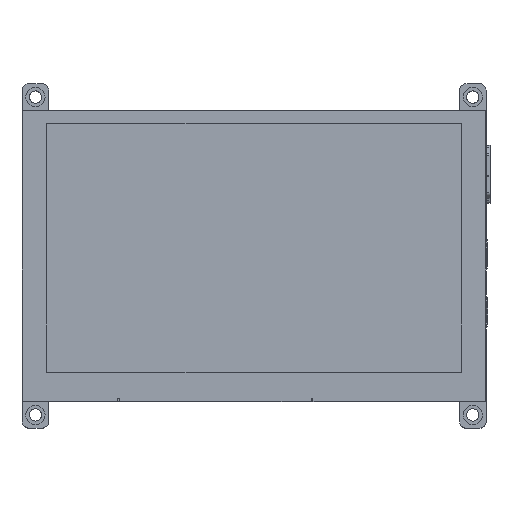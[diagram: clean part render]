
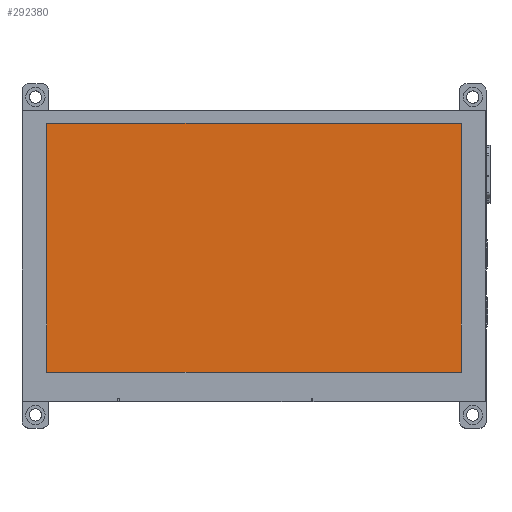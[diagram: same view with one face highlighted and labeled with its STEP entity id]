
A CAD part, top view. The second image highlights one B-rep face of the part: STEP entity #292380.
In plain terms, the highlighted free-form (B-spline) face has degree [1, 1] with [2, 2] control points.
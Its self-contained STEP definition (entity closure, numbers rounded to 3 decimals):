
#117=(GEOMETRIC_REPRESENTATION_CONTEXT(2)PARAMETRIC_REPRESENTATION_CONTEXT()REPRESENTATION_CONTEXT('',''));
#292120=CARTESIAN_POINT('',(2.95,75.94,5.4));
#292121=CARTESIAN_POINT('',(110.95,75.94,5.4));
#292122=CARTESIAN_POINT('',(2.95,75.94,0.8));
#292123=CARTESIAN_POINT('',(110.95,75.94,0.8));
#292124=B_SPLINE_SURFACE_WITH_KNOTS('',1,1,((#292120,#292121),(#292122,#292123)),.UNSPECIFIED.,.F.,.F.,.U.,(2,2),(2,2),(0.,0.005),(0.003,0.111),.UNSPECIFIED.);
#292150=CARTESIAN_POINT('',(2.95,75.94,5.4));
#292151=VERTEX_POINT('',#292150);
#292152=CARTESIAN_POINT('',(2.95,11.14,0.8));
#292153=CARTESIAN_POINT('',(2.95,75.94,0.8));
#292154=CARTESIAN_POINT('',(2.95,11.14,5.4));
#292155=CARTESIAN_POINT('',(2.95,75.94,5.4));
#292156=B_SPLINE_SURFACE_WITH_KNOTS('',1,1,((#292152,#292153),(#292154,#292155)),.UNSPECIFIED.,.F.,.F.,.U.,(2,2),(2,2),(-0.005,0.),(0.011,0.076),.UNSPECIFIED.);
#292173=CARTESIAN_POINT('',(110.95,75.94,5.4));
#292174=VERTEX_POINT('',#292173);
#292175=CARTESIAN_POINT('',(110.95,11.14,5.4));
#292176=CARTESIAN_POINT('',(110.95,75.94,5.4));
#292177=CARTESIAN_POINT('',(2.95,11.14,5.4));
#292178=CARTESIAN_POINT('',(2.95,75.94,5.4));
#292179=B_SPLINE_SURFACE_WITH_KNOTS('',1,1,((#292175,#292176),(#292177,#292178)),.UNSPECIFIED.,.F.,.F.,.U.,(2,2),(2,2),(-0.111,-0.003),(0.011,0.076),.UNSPECIFIED.);
#292180=CARTESIAN_POINT('',(0.,0.111));
#292181=CARTESIAN_POINT('',(0.,0.003));
#292182=B_SPLINE_CURVE_WITH_KNOTS('',1,(#292180,#292181),.UNSPECIFIED.,.F.,.F.,(2,2),(-0.111,-0.003),.UNSPECIFIED.);
#292183=DEFINITIONAL_REPRESENTATION('',(#292182),#117);
#292184=PCURVE('',#292124,#292183);
#292185=CARTESIAN_POINT('',(-0.111,0.076));
#292186=CARTESIAN_POINT('',(-0.003,0.076));
#292187=B_SPLINE_CURVE_WITH_KNOTS('',1,(#292185,#292186),.UNSPECIFIED.,.F.,.F.,(2,2),(-0.111,-0.003),.UNSPECIFIED.);
#292188=DEFINITIONAL_REPRESENTATION('',(#292187),#117);
#292189=PCURVE('',#292179,#292188);
#292190=CARTESIAN_POINT('',(110.95,75.94,5.4));
#292191=CARTESIAN_POINT('',(2.95,75.94,5.4));
#292192=B_SPLINE_CURVE_WITH_KNOTS('',1,(#292190,#292191),.UNSPECIFIED.,.F.,.F.,(2,2),(-0.111,-0.003),.UNSPECIFIED.);
#292193=INTERSECTION_CURVE('',#292192,(#292184,#292189),.PCURVE_S1.);
#292194=EDGE_CURVE('',#292174,#292151,#292193,.T.);
#292196=CARTESIAN_POINT('',(110.95,11.14,5.4));
#292197=CARTESIAN_POINT('',(110.95,75.94,5.4));
#292198=CARTESIAN_POINT('',(110.95,11.14,0.8));
#292199=CARTESIAN_POINT('',(110.95,75.94,0.8));
#292200=B_SPLINE_SURFACE_WITH_KNOTS('',1,1,((#292196,#292197),(#292198,#292199)),.UNSPECIFIED.,.F.,.F.,.U.,(2,2),(2,2),(0.,0.005),(0.011,0.076),.UNSPECIFIED.);
#292238=CARTESIAN_POINT('',(2.95,11.14,5.4));
#292239=VERTEX_POINT('',#292238);
#292240=CARTESIAN_POINT('',(2.95,11.14,5.4));
#292241=CARTESIAN_POINT('',(110.95,11.14,5.4));
#292242=CARTESIAN_POINT('',(2.95,11.14,0.8));
#292243=CARTESIAN_POINT('',(110.95,11.14,0.8));
#292244=B_SPLINE_SURFACE_WITH_KNOTS('',1,1,((#292240,#292241),(#292242,#292243)),.UNSPECIFIED.,.F.,.F.,.U.,(2,2),(2,2),(0.,0.005),(0.003,0.111),.UNSPECIFIED.);
#292261=CARTESIAN_POINT('',(0.,0.011));
#292262=CARTESIAN_POINT('',(0.,0.076));
#292263=B_SPLINE_CURVE_WITH_KNOTS('',1,(#292261,#292262),.UNSPECIFIED.,.F.,.F.,(2,2),(0.011,0.076),.UNSPECIFIED.);
#292264=DEFINITIONAL_REPRESENTATION('',(#292263),#117);
#292265=PCURVE('',#292156,#292264);
#292266=CARTESIAN_POINT('',(-0.003,0.011));
#292267=CARTESIAN_POINT('',(-0.003,0.076));
#292268=B_SPLINE_CURVE_WITH_KNOTS('',1,(#292266,#292267),.UNSPECIFIED.,.F.,.F.,(2,2),(0.011,0.076),.UNSPECIFIED.);
#292269=DEFINITIONAL_REPRESENTATION('',(#292268),#117);
#292270=PCURVE('',#292179,#292269);
#292271=CARTESIAN_POINT('',(2.95,11.14,5.4));
#292272=CARTESIAN_POINT('',(2.95,75.94,5.4));
#292273=B_SPLINE_CURVE_WITH_KNOTS('',1,(#292271,#292272),.UNSPECIFIED.,.F.,.F.,(2,2),(0.011,0.076),.UNSPECIFIED.);
#292274=INTERSECTION_CURVE('',#292273,(#292265,#292270),.PCURVE_S1.);
#292275=EDGE_CURVE('',#292239,#292151,#292274,.T.);
#292299=CARTESIAN_POINT('',(110.95,11.14,5.4));
#292300=VERTEX_POINT('',#292299);
#292317=CARTESIAN_POINT('',(0.,0.111));
#292318=CARTESIAN_POINT('',(0.,0.003));
#292319=B_SPLINE_CURVE_WITH_KNOTS('',1,(#292317,#292318),.UNSPECIFIED.,.F.,.F.,(2,2),(-0.111,-0.003),.UNSPECIFIED.);
#292320=DEFINITIONAL_REPRESENTATION('',(#292319),#117);
#292321=PCURVE('',#292244,#292320);
#292322=CARTESIAN_POINT('',(-0.111,0.011));
#292323=CARTESIAN_POINT('',(-0.003,0.011));
#292324=B_SPLINE_CURVE_WITH_KNOTS('',1,(#292322,#292323),.UNSPECIFIED.,.F.,.F.,(2,2),(-0.111,-0.003),.UNSPECIFIED.);
#292325=DEFINITIONAL_REPRESENTATION('',(#292324),#117);
#292326=PCURVE('',#292179,#292325);
#292327=CARTESIAN_POINT('',(110.95,11.14,5.4));
#292328=CARTESIAN_POINT('',(2.95,11.14,5.4));
#292329=B_SPLINE_CURVE_WITH_KNOTS('',1,(#292327,#292328),.UNSPECIFIED.,.F.,.F.,(2,2),(-0.111,-0.003),.UNSPECIFIED.);
#292330=INTERSECTION_CURVE('',#292329,(#292321,#292326),.PCURVE_S1.);
#292331=EDGE_CURVE('',#292300,#292239,#292330,.T.);
#292354=CARTESIAN_POINT('',(0.,0.076));
#292355=CARTESIAN_POINT('',(0.,0.011));
#292356=B_SPLINE_CURVE_WITH_KNOTS('',1,(#292354,#292355),.UNSPECIFIED.,.F.,.F.,(2,2),(-0.076,-0.011),.UNSPECIFIED.);
#292357=DEFINITIONAL_REPRESENTATION('',(#292356),#117);
#292358=PCURVE('',#292200,#292357);
#292359=CARTESIAN_POINT('',(-0.111,0.076));
#292360=CARTESIAN_POINT('',(-0.111,0.011));
#292361=B_SPLINE_CURVE_WITH_KNOTS('',1,(#292359,#292360),.UNSPECIFIED.,.F.,.F.,(2,2),(-0.076,-0.011),.UNSPECIFIED.);
#292362=DEFINITIONAL_REPRESENTATION('',(#292361),#117);
#292363=PCURVE('',#292179,#292362);
#292364=CARTESIAN_POINT('',(110.95,75.94,5.4));
#292365=CARTESIAN_POINT('',(110.95,11.14,5.4));
#292366=B_SPLINE_CURVE_WITH_KNOTS('',1,(#292364,#292365),.UNSPECIFIED.,.F.,.F.,(2,2),(-0.076,-0.011),.UNSPECIFIED.);
#292367=INTERSECTION_CURVE('',#292366,(#292358,#292363),.PCURVE_S1.);
#292368=EDGE_CURVE('',#292174,#292300,#292367,.T.);
#292374=ORIENTED_EDGE('',*,*,#292194,.T.);
#292375=ORIENTED_EDGE('',*,*,#292275,.F.);
#292376=ORIENTED_EDGE('',*,*,#292331,.F.);
#292377=ORIENTED_EDGE('',*,*,#292368,.F.);
#292378=EDGE_LOOP('',(#292374,#292375,#292376,#292377));
#292379=FACE_BOUND('',#292378,.T.);
#292380=ADVANCED_FACE('',(#292379),#292179,.F.);
